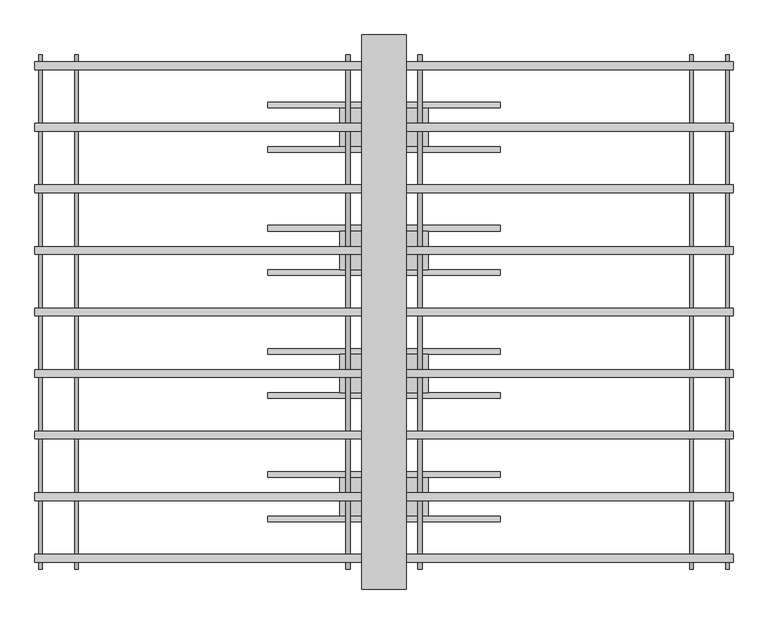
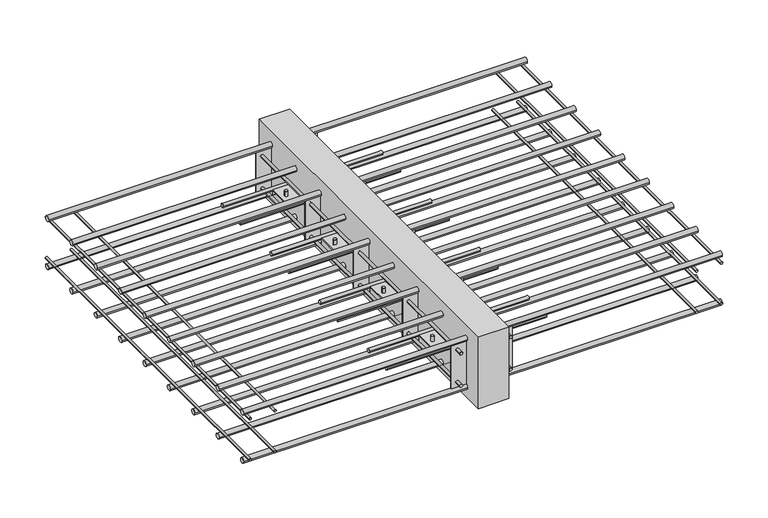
"""IFC4 building model written with IfcOpenShell, lengths in millimetres: proxy geometry, ACINOXplus_Typenreihe_M : MG+ S4."""

from ifc_helpers import new_model, si_unit, point, frame, frame_2d, origin, place, context, project, spatial, polyline, circle_curve, trimmed, segment, composite_curve, outline, extrude, source, transform, mapped, element, save
from ifc_brep_helpers import plane_surface, cylinder_surface, advanced_brep


def generic_models_3da3af35(model_context):
    return source(origin(), model_context, "Body", "SolidModel", [
        extrude(outline(composite_curve([segment(trimmed(circle_curve(frame_2d((-373.3333333, -104.0)), 5.0), [point((-378.3333333, -104.0))], [point((-368.3333333, -104.0))], False, "CARTESIAN"), True, "CONTINUOUS"), segment(trimmed(circle_curve(frame_2d((-373.3333333, -104.0)), 5.0), [point((-368.3333333, -104.0))], [point((-378.3333333, -104.0))], False, "CARTESIAN"), True, "CONTINUOUS")], self_intersect=False)), frame((-210.0, 0.0, 0.0), z_axis=(1.0, 0.0, 0.0), x_axis=(0.0, 1.0, 0.0)), (0.0, 0.0, 1.0), 420.0),
        extrude(outline(composite_curve([segment(trimmed(circle_curve(frame_2d((-293.3333333, -104.0)), 5.0), [point((-298.3333333, -104.0))], [point((-288.3333333, -104.0))], False, "CARTESIAN"), True, "CONTINUOUS"), segment(trimmed(circle_curve(frame_2d((-293.3333333, -104.0)), 5.0), [point((-288.3333333, -104.0))], [point((-298.3333333, -104.0))], False, "CARTESIAN"), True, "CONTINUOUS")], self_intersect=False)), frame((-210.0, 0.0, 0.0), z_axis=(1.0, 0.0, 0.0), x_axis=(0.0, 1.0, 0.0)), (0.0, 0.0, 1.0), 420.0),
        advanced_brep(
        [(-69.0, -333.3333333, -89.0), (-61.0, -333.3333333, -89.0), (61.0, -333.3333333, -89.0), (69.0, -333.3333333, -89.0), (-69.0, -333.3333333, -119.0), (-61.0, -333.3333333, -119.0), (61.0, -333.3333333, -119.0), (69.0, -333.3333333, -119.0), (-69.0, -333.3333333, -102.5), (-61.0, -333.3333333, -102.5), (-61.0, -333.3333333, -105.5), (-69.0, -333.3333333, -105.5), (61.0, -333.3333333, -102.5), (69.0, -333.3333333, -102.5), (69.0, -333.3333333, -105.5), (61.0, -333.3333333, -105.5), (80.0, -298.3333333, -102.5), (-80.0, -298.3333333, -102.5), (-80.0, -368.3333333, -102.5), (80.0, -368.3333333, -102.5), (80.0, -298.3333333, -105.5), (80.0, -368.3333333, -105.5), (-80.0, -368.3333333, -105.5), (-80.0, -298.3333333, -105.5)],
        [
            (0, 1, circle_curve(frame((-65.0, -333.3333333, -89.0), z_axis=(0.0, 0.0, 1.0), x_axis=(1.0, 0.0, 0.0)), 4.0)),
            (1, 0, circle_curve(frame((-65.0, -333.3333333, -89.0), z_axis=(0.0, 0.0, 1.0), x_axis=(1.0, 0.0, 0.0)), 4.0)),
            (2, 3, circle_curve(frame((65.0, -333.3333333, -89.0), z_axis=(0.0, 0.0, 1.0), x_axis=(1.0, 0.0, 0.0)), 4.0)),
            (3, 2, circle_curve(frame((65.0, -333.3333333, -89.0), z_axis=(0.0, 0.0, 1.0), x_axis=(1.0, 0.0, 0.0)), 4.0)),
            (4, 5, circle_curve(frame((-65.0, -333.3333333, -119.0), z_axis=(0.0, 0.0, -1.0), x_axis=(1.0, 0.0, 0.0)), 4.0)),
            (5, 4, circle_curve(frame((-65.0, -333.3333333, -119.0), z_axis=(0.0, 0.0, -1.0), x_axis=(1.0, 0.0, 0.0)), 4.0)),
            (6, 7, circle_curve(frame((65.0, -333.3333333, -119.0), z_axis=(0.0, 0.0, -1.0), x_axis=(1.0, 0.0, 0.0)), 4.0)),
            (7, 6, circle_curve(frame((65.0, -333.3333333, -119.0), z_axis=(0.0, 0.0, -1.0), x_axis=(1.0, 0.0, 0.0)), 4.0)),
            (0, 8),
            (8, 9, circle_curve(frame((-65.0, -333.3333333, -102.5), z_axis=(0.0, 0.0, 1.0), x_axis=(1.0, 0.0, 0.0)), 4.0)),
            (9, 1),
            (5, 10),
            (10, 11, circle_curve(frame((-65.0, -333.3333333, -105.5), z_axis=(0.0, 0.0, -1.0), x_axis=(1.0, 0.0, 0.0)), 4.0)),
            (11, 4),
            (9, 8, circle_curve(frame((-65.0, -333.3333333, -102.5), z_axis=(0.0, 0.0, 1.0), x_axis=(1.0, 0.0, 0.0)), 4.0)),
            (11, 10, circle_curve(frame((-65.0, -333.3333333, -105.5), z_axis=(0.0, 0.0, -1.0), x_axis=(1.0, 0.0, 0.0)), 4.0)),
            (2, 12),
            (12, 13, circle_curve(frame((65.0, -333.3333333, -102.5), z_axis=(0.0, 0.0, 1.0), x_axis=(1.0, 0.0, 0.0)), 4.0)),
            (13, 3),
            (7, 14),
            (14, 15, circle_curve(frame((65.0, -333.3333333, -105.5), z_axis=(0.0, 0.0, -1.0), x_axis=(1.0, 0.0, 0.0)), 4.0)),
            (15, 6),
            (13, 12, circle_curve(frame((65.0, -333.3333333, -102.5), z_axis=(0.0, 0.0, 1.0), x_axis=(1.0, 0.0, 0.0)), 4.0)),
            (15, 14, circle_curve(frame((65.0, -333.3333333, -105.5), z_axis=(0.0, 0.0, -1.0), x_axis=(1.0, 0.0, 0.0)), 4.0)),
            (16, 17),
            (17, 18),
            (18, 19),
            (19, 16),
            (20, 21),
            (21, 22),
            (22, 23),
            (23, 20),
            (16, 20),
            (23, 17),
            (22, 18),
            (21, 19),
        ],
        [
            plane_surface(frame((-61.0, -333.3333333, -89.0), z_axis=(0.0, 0.0, 1.0), x_axis=(0.0, 1.0, 0.0))),
            plane_surface(frame((-61.0, -333.3333333, -119.0), z_axis=(0.0, 0.0, -1.0), x_axis=(0.0, -1.0, 0.0))),
            cylinder_surface(frame((-65.0, -333.3333333, -119.0), z_axis=(0.0, 0.0, 1.0), x_axis=(1.0, 0.0, 0.0)), 4.0),
            cylinder_surface(frame((65.0, -333.3333333, -104.0), z_axis=(0.0, 0.0, 1.0), x_axis=(1.0, 0.0, 0.0)), 4.0),
            plane_surface(frame((-80.0, -298.3333333, -102.5), z_axis=(0.0, 0.0, 1.0), x_axis=(-1.0, 0.0, 0.0))),
            plane_surface(frame((-80.0, -298.3333333, -105.5), z_axis=(0.0, 0.0, -1.0), x_axis=(1.0, 0.0, 0.0))),
            plane_surface(frame((80.0, -298.3333333, -102.5), z_axis=(0.0, 1.0, 0.0), x_axis=(0.0, 0.0, -1.0))),
            plane_surface(frame((-80.0, -298.3333333, -102.5), z_axis=(-1.0, 0.0, 0.0), x_axis=(0.0, 0.0, -1.0))),
            plane_surface(frame((-80.0, -368.3333333, -102.5), z_axis=(0.0, -1.0, 0.0), x_axis=(0.0, 0.0, -1.0))),
            plane_surface(frame((80.0, -368.3333333, -102.5), z_axis=(1.0, 0.0, 0.0), x_axis=(0.0, 0.0, -1.0))),
        ],
        [
            (0, [[1, 2]]),
            (0, [[3, 4]]),
            (1, [[5, 6]]),
            (1, [[7, 8]]),
            (2, [[-1, 9, 10, 11]]),
            (2, [[-6, 12, 13, 14]]),
            (2, [[-2, -11, 15, -9]]),
            (2, [[-5, -14, 16, -12]]),
            (3, [[-3, 17, 18, 19]]),
            (3, [[-8, 20, 21, 22]]),
            (3, [[-4, -19, 23, -17]]),
            (3, [[-7, -22, 24, -20]]),
            (4, [[25, 26, 27, 28], [-10, -15], [-18, -23]]),
            (5, [[29, 30, 31, 32], [-13, -16], [-21, -24]]),
            (6, [[-25, 33, -32, 34]]),
            (7, [[-26, -34, -31, 35]]),
            (8, [[-27, -35, -30, 36]]),
            (9, [[-28, -36, -29, -33]]),
        ],
    ),
        extrude(outline(composite_curve([segment(trimmed(circle_curve(frame_2d((293.3333333, -104.0)), 5.0), [point((288.3333333, -104.0))], [point((298.3333333, -104.0))], False, "CARTESIAN"), True, "CONTINUOUS"), segment(trimmed(circle_curve(frame_2d((293.3333333, -104.0)), 5.0), [point((298.3333333, -104.0))], [point((288.3333333, -104.0))], False, "CARTESIAN"), True, "CONTINUOUS")], self_intersect=False)), frame((-210.0, 0.0, 0.0), z_axis=(1.0, 0.0, 0.0), x_axis=(0.0, 1.0, 0.0)), (0.0, 0.0, 1.0), 420.0),
        extrude(outline(composite_curve([segment(trimmed(circle_curve(frame_2d((373.3333333, -104.0)), 5.0), [point((368.3333333, -104.0))], [point((378.3333333, -104.0))], False, "CARTESIAN"), True, "CONTINUOUS"), segment(trimmed(circle_curve(frame_2d((373.3333333, -104.0)), 5.0), [point((378.3333333, -104.0))], [point((368.3333333, -104.0))], False, "CARTESIAN"), True, "CONTINUOUS")], self_intersect=False)), frame((-210.0, 0.0, 0.0), z_axis=(1.0, 0.0, 0.0), x_axis=(0.0, 1.0, 0.0)), (0.0, 0.0, 1.0), 420.0),
        advanced_brep(
        [(-69.0, 333.3333333, -89.0), (-61.0, 333.3333333, -89.0), (61.0, 333.3333333, -89.0), (69.0, 333.3333333, -89.0), (-69.0, 333.3333333, -119.0), (-61.0, 333.3333333, -119.0), (61.0, 333.3333333, -119.0), (69.0, 333.3333333, -119.0), (-69.0, 333.3333333, -102.5), (-61.0, 333.3333333, -102.5), (-61.0, 333.3333333, -105.5), (-69.0, 333.3333333, -105.5), (61.0, 333.3333333, -102.5), (69.0, 333.3333333, -102.5), (69.0, 333.3333333, -105.5), (61.0, 333.3333333, -105.5), (80.0, 368.3333333, -102.5), (-80.0, 368.3333333, -102.5), (-80.0, 298.3333333, -102.5), (80.0, 298.3333333, -102.5), (80.0, 368.3333333, -105.5), (80.0, 298.3333333, -105.5), (-80.0, 298.3333333, -105.5), (-80.0, 368.3333333, -105.5)],
        [
            (0, 1, circle_curve(frame((-65.0, 333.3333333, -89.0), z_axis=(0.0, 0.0, 1.0), x_axis=(1.0, 0.0, 0.0)), 4.0)),
            (1, 0, circle_curve(frame((-65.0, 333.3333333, -89.0), z_axis=(0.0, 0.0, 1.0), x_axis=(1.0, 0.0, 0.0)), 4.0)),
            (2, 3, circle_curve(frame((65.0, 333.3333333, -89.0), z_axis=(0.0, 0.0, 1.0), x_axis=(1.0, 0.0, 0.0)), 4.0)),
            (3, 2, circle_curve(frame((65.0, 333.3333333, -89.0), z_axis=(0.0, 0.0, 1.0), x_axis=(1.0, 0.0, 0.0)), 4.0)),
            (4, 5, circle_curve(frame((-65.0, 333.3333333, -119.0), z_axis=(0.0, 0.0, -1.0), x_axis=(1.0, 0.0, 0.0)), 4.0)),
            (5, 4, circle_curve(frame((-65.0, 333.3333333, -119.0), z_axis=(0.0, 0.0, -1.0), x_axis=(1.0, 0.0, 0.0)), 4.0)),
            (6, 7, circle_curve(frame((65.0, 333.3333333, -119.0), z_axis=(0.0, 0.0, -1.0), x_axis=(1.0, 0.0, 0.0)), 4.0)),
            (7, 6, circle_curve(frame((65.0, 333.3333333, -119.0), z_axis=(0.0, 0.0, -1.0), x_axis=(1.0, 0.0, 0.0)), 4.0)),
            (0, 8),
            (8, 9, circle_curve(frame((-65.0, 333.3333333, -102.5), z_axis=(0.0, 0.0, 1.0), x_axis=(1.0, 0.0, 0.0)), 4.0)),
            (9, 1),
            (5, 10),
            (10, 11, circle_curve(frame((-65.0, 333.3333333, -105.5), z_axis=(0.0, 0.0, -1.0), x_axis=(1.0, 0.0, 0.0)), 4.0)),
            (11, 4),
            (9, 8, circle_curve(frame((-65.0, 333.3333333, -102.5), z_axis=(0.0, 0.0, 1.0), x_axis=(1.0, 0.0, 0.0)), 4.0)),
            (11, 10, circle_curve(frame((-65.0, 333.3333333, -105.5), z_axis=(0.0, 0.0, -1.0), x_axis=(1.0, 0.0, 0.0)), 4.0)),
            (2, 12),
            (12, 13, circle_curve(frame((65.0, 333.3333333, -102.5), z_axis=(0.0, 0.0, 1.0), x_axis=(1.0, 0.0, 0.0)), 4.0)),
            (13, 3),
            (7, 14),
            (14, 15, circle_curve(frame((65.0, 333.3333333, -105.5), z_axis=(0.0, 0.0, -1.0), x_axis=(1.0, 0.0, 0.0)), 4.0)),
            (15, 6),
            (13, 12, circle_curve(frame((65.0, 333.3333333, -102.5), z_axis=(0.0, 0.0, 1.0), x_axis=(1.0, 0.0, 0.0)), 4.0)),
            (15, 14, circle_curve(frame((65.0, 333.3333333, -105.5), z_axis=(0.0, 0.0, -1.0), x_axis=(1.0, 0.0, 0.0)), 4.0)),
            (16, 17),
            (17, 18),
            (18, 19),
            (19, 16),
            (20, 21),
            (21, 22),
            (22, 23),
            (23, 20),
            (16, 20),
            (23, 17),
            (22, 18),
            (21, 19),
        ],
        [
            plane_surface(frame((-61.0, 333.3333333, -89.0), z_axis=(0.0, 0.0, 1.0), x_axis=(0.0, 1.0, 0.0))),
            plane_surface(frame((-61.0, 333.3333333, -119.0), z_axis=(0.0, 0.0, -1.0), x_axis=(0.0, -1.0, 0.0))),
            cylinder_surface(frame((-65.0, 333.3333333, -119.0), z_axis=(0.0, 0.0, 1.0), x_axis=(1.0, 0.0, 0.0)), 4.0),
            cylinder_surface(frame((65.0, 333.3333333, -104.0), z_axis=(0.0, 0.0, 1.0), x_axis=(1.0, 0.0, 0.0)), 4.0),
            plane_surface(frame((-80.0, 368.3333333, -102.5), z_axis=(0.0, 0.0, 1.0), x_axis=(-1.0, 0.0, 0.0))),
            plane_surface(frame((-80.0, 368.3333333, -105.5), z_axis=(0.0, 0.0, -1.0), x_axis=(1.0, 0.0, 0.0))),
            plane_surface(frame((80.0, 368.3333333, -102.5), z_axis=(0.0, 1.0, 0.0), x_axis=(0.0, 0.0, -1.0))),
            plane_surface(frame((-80.0, 368.3333333, -102.5), z_axis=(-1.0, 0.0, 0.0), x_axis=(0.0, 0.0, -1.0))),
            plane_surface(frame((-80.0, 298.3333333, -102.5), z_axis=(0.0, -1.0, 0.0), x_axis=(0.0, 0.0, -1.0))),
            plane_surface(frame((80.0, 298.3333333, -102.5), z_axis=(1.0, 0.0, 0.0), x_axis=(0.0, 0.0, -1.0))),
        ],
        [
            (0, [[1, 2]]),
            (0, [[3, 4]]),
            (1, [[5, 6]]),
            (1, [[7, 8]]),
            (2, [[-1, 9, 10, 11]]),
            (2, [[-6, 12, 13, 14]]),
            (2, [[-2, -11, 15, -9]]),
            (2, [[-5, -14, 16, -12]]),
            (3, [[-3, 17, 18, 19]]),
            (3, [[-8, 20, 21, 22]]),
            (3, [[-4, -19, 23, -17]]),
            (3, [[-7, -22, 24, -20]]),
            (4, [[25, 26, 27, 28], [-10, -15], [-18, -23]]),
            (5, [[29, 30, 31, 32], [-13, -16], [-21, -24]]),
            (6, [[-25, 33, -32, 34]]),
            (7, [[-26, -34, -31, 35]]),
            (8, [[-27, -35, -30, 36]]),
            (9, [[-28, -36, -29, -33]]),
        ],
    ),
        extrude(outline(composite_curve([segment(trimmed(circle_curve(frame_2d((-151.1111111, -104.0)), 5.0), [point((-156.1111111, -104.0))], [point((-146.1111111, -104.0))], False, "CARTESIAN"), True, "CONTINUOUS"), segment(trimmed(circle_curve(frame_2d((-151.1111111, -104.0)), 5.0), [point((-146.1111111, -104.0))], [point((-156.1111111, -104.0))], False, "CARTESIAN"), True, "CONTINUOUS")], self_intersect=False)), frame((-210.0, 0.0, 0.0), z_axis=(1.0, 0.0, 0.0), x_axis=(0.0, 1.0, 0.0)), (0.0, 0.0, 1.0), 420.0),
        extrude(outline(composite_curve([segment(trimmed(circle_curve(frame_2d((-71.1111111, -104.0)), 5.0), [point((-76.1111111, -104.0))], [point((-66.1111111, -104.0))], False, "CARTESIAN"), True, "CONTINUOUS"), segment(trimmed(circle_curve(frame_2d((-71.1111111, -104.0)), 5.0), [point((-66.1111111, -104.0))], [point((-76.1111111, -104.0))], False, "CARTESIAN"), True, "CONTINUOUS")], self_intersect=False)), frame((-210.0, 0.0, 0.0), z_axis=(1.0, 0.0, 0.0), x_axis=(0.0, 1.0, 0.0)), (0.0, 0.0, 1.0), 420.0),
        advanced_brep(
        [(-69.0, -111.1111111, -89.0), (-61.0, -111.1111111, -89.0), (61.0, -111.1111111, -89.0), (69.0, -111.1111111, -89.0), (-69.0, -111.1111111, -119.0), (-61.0, -111.1111111, -119.0), (61.0, -111.1111111, -119.0), (69.0, -111.1111111, -119.0), (-69.0, -111.1111111, -102.5), (-61.0, -111.1111111, -102.5), (-61.0, -111.1111111, -105.5), (-69.0, -111.1111111, -105.5), (61.0, -111.1111111, -102.5), (69.0, -111.1111111, -102.5), (69.0, -111.1111111, -105.5), (61.0, -111.1111111, -105.5), (80.0, -76.1111111, -102.5), (-80.0, -76.1111111, -102.5), (-80.0, -146.1111111, -102.5), (80.0, -146.1111111, -102.5), (80.0, -76.1111111, -105.5), (80.0, -146.1111111, -105.5), (-80.0, -146.1111111, -105.5), (-80.0, -76.1111111, -105.5)],
        [
            (0, 1, circle_curve(frame((-65.0, -111.1111111, -89.0), z_axis=(0.0, 0.0, 1.0), x_axis=(1.0, 0.0, 0.0)), 4.0)),
            (1, 0, circle_curve(frame((-65.0, -111.1111111, -89.0), z_axis=(0.0, 0.0, 1.0), x_axis=(1.0, 0.0, 0.0)), 4.0)),
            (2, 3, circle_curve(frame((65.0, -111.1111111, -89.0), z_axis=(0.0, 0.0, 1.0), x_axis=(1.0, 0.0, 0.0)), 4.0)),
            (3, 2, circle_curve(frame((65.0, -111.1111111, -89.0), z_axis=(0.0, 0.0, 1.0), x_axis=(1.0, 0.0, 0.0)), 4.0)),
            (4, 5, circle_curve(frame((-65.0, -111.1111111, -119.0), z_axis=(0.0, 0.0, -1.0), x_axis=(1.0, 0.0, 0.0)), 4.0)),
            (5, 4, circle_curve(frame((-65.0, -111.1111111, -119.0), z_axis=(0.0, 0.0, -1.0), x_axis=(1.0, 0.0, 0.0)), 4.0)),
            (6, 7, circle_curve(frame((65.0, -111.1111111, -119.0), z_axis=(0.0, 0.0, -1.0), x_axis=(1.0, 0.0, 0.0)), 4.0)),
            (7, 6, circle_curve(frame((65.0, -111.1111111, -119.0), z_axis=(0.0, 0.0, -1.0), x_axis=(1.0, 0.0, 0.0)), 4.0)),
            (0, 8),
            (8, 9, circle_curve(frame((-65.0, -111.1111111, -102.5), z_axis=(0.0, 0.0, 1.0), x_axis=(1.0, 0.0, 0.0)), 4.0)),
            (9, 1),
            (5, 10),
            (10, 11, circle_curve(frame((-65.0, -111.1111111, -105.5), z_axis=(0.0, 0.0, -1.0), x_axis=(1.0, 0.0, 0.0)), 4.0)),
            (11, 4),
            (9, 8, circle_curve(frame((-65.0, -111.1111111, -102.5), z_axis=(0.0, 0.0, 1.0), x_axis=(1.0, 0.0, 0.0)), 4.0)),
            (11, 10, circle_curve(frame((-65.0, -111.1111111, -105.5), z_axis=(0.0, 0.0, -1.0), x_axis=(1.0, 0.0, 0.0)), 4.0)),
            (2, 12),
            (12, 13, circle_curve(frame((65.0, -111.1111111, -102.5), z_axis=(0.0, 0.0, 1.0), x_axis=(1.0, 0.0, 0.0)), 4.0)),
            (13, 3),
            (7, 14),
            (14, 15, circle_curve(frame((65.0, -111.1111111, -105.5), z_axis=(0.0, 0.0, -1.0), x_axis=(1.0, 0.0, 0.0)), 4.0)),
            (15, 6),
            (13, 12, circle_curve(frame((65.0, -111.1111111, -102.5), z_axis=(0.0, 0.0, 1.0), x_axis=(1.0, 0.0, 0.0)), 4.0)),
            (15, 14, circle_curve(frame((65.0, -111.1111111, -105.5), z_axis=(0.0, 0.0, -1.0), x_axis=(1.0, 0.0, 0.0)), 4.0)),
            (16, 17),
            (17, 18),
            (18, 19),
            (19, 16),
            (20, 21),
            (21, 22),
            (22, 23),
            (23, 20),
            (16, 20),
            (23, 17),
            (22, 18),
            (21, 19),
        ],
        [
            plane_surface(frame((-61.0, -111.1111111, -89.0), z_axis=(0.0, 0.0, 1.0), x_axis=(0.0, 1.0, 0.0))),
            plane_surface(frame((-61.0, -111.1111111, -119.0), z_axis=(0.0, 0.0, -1.0), x_axis=(0.0, -1.0, 0.0))),
            cylinder_surface(frame((-65.0, -111.1111111, -119.0), z_axis=(0.0, 0.0, 1.0), x_axis=(1.0, 0.0, 0.0)), 4.0),
            cylinder_surface(frame((65.0, -111.1111111, -104.0), z_axis=(0.0, 0.0, 1.0), x_axis=(1.0, 0.0, 0.0)), 4.0),
            plane_surface(frame((-80.0, -76.1111111, -102.5), z_axis=(0.0, 0.0, 1.0), x_axis=(-1.0, 0.0, 0.0))),
            plane_surface(frame((-80.0, -76.1111111, -105.5), z_axis=(0.0, 0.0, -1.0), x_axis=(1.0, 0.0, 0.0))),
            plane_surface(frame((80.0, -76.1111111, -102.5), z_axis=(0.0, 1.0, 0.0), x_axis=(0.0, 0.0, -1.0))),
            plane_surface(frame((-80.0, -76.1111111, -102.5), z_axis=(-1.0, 0.0, 0.0), x_axis=(0.0, 0.0, -1.0))),
            plane_surface(frame((-80.0, -146.1111111, -102.5), z_axis=(0.0, -1.0, 0.0), x_axis=(0.0, 0.0, -1.0))),
            plane_surface(frame((80.0, -146.1111111, -102.5), z_axis=(1.0, 0.0, 0.0), x_axis=(0.0, 0.0, -1.0))),
        ],
        [
            (0, [[1, 2]]),
            (0, [[3, 4]]),
            (1, [[5, 6]]),
            (1, [[7, 8]]),
            (2, [[-1, 9, 10, 11]]),
            (2, [[-6, 12, 13, 14]]),
            (2, [[-2, -11, 15, -9]]),
            (2, [[-5, -14, 16, -12]]),
            (3, [[-3, 17, 18, 19]]),
            (3, [[-8, 20, 21, 22]]),
            (3, [[-4, -19, 23, -17]]),
            (3, [[-7, -22, 24, -20]]),
            (4, [[25, 26, 27, 28], [-10, -15], [-18, -23]]),
            (5, [[29, 30, 31, 32], [-13, -16], [-21, -24]]),
            (6, [[-25, 33, -32, 34]]),
            (7, [[-26, -34, -31, 35]]),
            (8, [[-27, -35, -30, 36]]),
            (9, [[-28, -36, -29, -33]]),
        ],
    ),
        extrude(outline(composite_curve([segment(trimmed(circle_curve(frame_2d((71.1111111, -104.0)), 5.0), [point((66.1111111, -104.0))], [point((76.1111111, -104.0))], False, "CARTESIAN"), True, "CONTINUOUS"), segment(trimmed(circle_curve(frame_2d((71.1111111, -104.0)), 5.0), [point((76.1111111, -104.0))], [point((66.1111111, -104.0))], False, "CARTESIAN"), True, "CONTINUOUS")], self_intersect=False)), frame((-210.0, 0.0, 0.0), z_axis=(1.0, 0.0, 0.0), x_axis=(0.0, 1.0, 0.0)), (0.0, 0.0, 1.0), 420.0),
        extrude(outline(composite_curve([segment(trimmed(circle_curve(frame_2d((151.1111111, -104.0)), 5.0), [point((146.1111111, -104.0))], [point((156.1111111, -104.0))], False, "CARTESIAN"), True, "CONTINUOUS"), segment(trimmed(circle_curve(frame_2d((151.1111111, -104.0)), 5.0), [point((156.1111111, -104.0))], [point((146.1111111, -104.0))], False, "CARTESIAN"), True, "CONTINUOUS")], self_intersect=False)), frame((-210.0, 0.0, 0.0), z_axis=(1.0, 0.0, 0.0), x_axis=(0.0, 1.0, 0.0)), (0.0, 0.0, 1.0), 420.0),
        advanced_brep(
        [(-69.0, 111.1111111, -89.0), (-61.0, 111.1111111, -89.0), (61.0, 111.1111111, -89.0), (69.0, 111.1111111, -89.0), (-69.0, 111.1111111, -119.0), (-61.0, 111.1111111, -119.0), (61.0, 111.1111111, -119.0), (69.0, 111.1111111, -119.0), (-69.0, 111.1111111, -102.5), (-61.0, 111.1111111, -102.5), (-61.0, 111.1111111, -105.5), (-69.0, 111.1111111, -105.5), (61.0, 111.1111111, -102.5), (69.0, 111.1111111, -102.5), (69.0, 111.1111111, -105.5), (61.0, 111.1111111, -105.5), (80.0, 146.1111111, -102.5), (-80.0, 146.1111111, -102.5), (-80.0, 76.1111111, -102.5), (80.0, 76.1111111, -102.5), (80.0, 146.1111111, -105.5), (80.0, 76.1111111, -105.5), (-80.0, 76.1111111, -105.5), (-80.0, 146.1111111, -105.5)],
        [
            (0, 1, circle_curve(frame((-65.0, 111.1111111, -89.0), z_axis=(0.0, 0.0, 1.0), x_axis=(1.0, 0.0, 0.0)), 4.0)),
            (1, 0, circle_curve(frame((-65.0, 111.1111111, -89.0), z_axis=(0.0, 0.0, 1.0), x_axis=(1.0, 0.0, 0.0)), 4.0)),
            (2, 3, circle_curve(frame((65.0, 111.1111111, -89.0), z_axis=(0.0, 0.0, 1.0), x_axis=(1.0, 0.0, 0.0)), 4.0)),
            (3, 2, circle_curve(frame((65.0, 111.1111111, -89.0), z_axis=(0.0, 0.0, 1.0), x_axis=(1.0, 0.0, 0.0)), 4.0)),
            (4, 5, circle_curve(frame((-65.0, 111.1111111, -119.0), z_axis=(0.0, 0.0, -1.0), x_axis=(1.0, 0.0, 0.0)), 4.0)),
            (5, 4, circle_curve(frame((-65.0, 111.1111111, -119.0), z_axis=(0.0, 0.0, -1.0), x_axis=(1.0, 0.0, 0.0)), 4.0)),
            (6, 7, circle_curve(frame((65.0, 111.1111111, -119.0), z_axis=(0.0, 0.0, -1.0), x_axis=(1.0, 0.0, 0.0)), 4.0)),
            (7, 6, circle_curve(frame((65.0, 111.1111111, -119.0), z_axis=(0.0, 0.0, -1.0), x_axis=(1.0, 0.0, 0.0)), 4.0)),
            (0, 8),
            (8, 9, circle_curve(frame((-65.0, 111.1111111, -102.5), z_axis=(0.0, 0.0, 1.0), x_axis=(1.0, 0.0, 0.0)), 4.0)),
            (9, 1),
            (5, 10),
            (10, 11, circle_curve(frame((-65.0, 111.1111111, -105.5), z_axis=(0.0, 0.0, -1.0), x_axis=(1.0, 0.0, 0.0)), 4.0)),
            (11, 4),
            (9, 8, circle_curve(frame((-65.0, 111.1111111, -102.5), z_axis=(0.0, 0.0, 1.0), x_axis=(1.0, 0.0, 0.0)), 4.0)),
            (11, 10, circle_curve(frame((-65.0, 111.1111111, -105.5), z_axis=(0.0, 0.0, -1.0), x_axis=(1.0, 0.0, 0.0)), 4.0)),
            (2, 12),
            (12, 13, circle_curve(frame((65.0, 111.1111111, -102.5), z_axis=(0.0, 0.0, 1.0), x_axis=(1.0, 0.0, 0.0)), 4.0)),
            (13, 3),
            (7, 14),
            (14, 15, circle_curve(frame((65.0, 111.1111111, -105.5), z_axis=(0.0, 0.0, -1.0), x_axis=(1.0, 0.0, 0.0)), 4.0)),
            (15, 6),
            (13, 12, circle_curve(frame((65.0, 111.1111111, -102.5), z_axis=(0.0, 0.0, 1.0), x_axis=(1.0, 0.0, 0.0)), 4.0)),
            (15, 14, circle_curve(frame((65.0, 111.1111111, -105.5), z_axis=(0.0, 0.0, -1.0), x_axis=(1.0, 0.0, 0.0)), 4.0)),
            (16, 17),
            (17, 18),
            (18, 19),
            (19, 16),
            (20, 21),
            (21, 22),
            (22, 23),
            (23, 20),
            (16, 20),
            (23, 17),
            (22, 18),
            (21, 19),
        ],
        [
            plane_surface(frame((-61.0, 111.1111111, -89.0), z_axis=(0.0, 0.0, 1.0), x_axis=(0.0, 1.0, 0.0))),
            plane_surface(frame((-61.0, 111.1111111, -119.0), z_axis=(0.0, 0.0, -1.0), x_axis=(0.0, -1.0, 0.0))),
            cylinder_surface(frame((-65.0, 111.1111111, -119.0), z_axis=(0.0, 0.0, 1.0), x_axis=(1.0, 0.0, 0.0)), 4.0),
            cylinder_surface(frame((65.0, 111.1111111, -104.0), z_axis=(0.0, 0.0, 1.0), x_axis=(1.0, 0.0, 0.0)), 4.0),
            plane_surface(frame((-80.0, 146.1111111, -102.5), z_axis=(0.0, 0.0, 1.0), x_axis=(-1.0, 0.0, 0.0))),
            plane_surface(frame((-80.0, 146.1111111, -105.5), z_axis=(0.0, 0.0, -1.0), x_axis=(1.0, 0.0, 0.0))),
            plane_surface(frame((80.0, 146.1111111, -102.5), z_axis=(0.0, 1.0, 0.0), x_axis=(0.0, 0.0, -1.0))),
            plane_surface(frame((-80.0, 146.1111111, -102.5), z_axis=(-1.0, 0.0, 0.0), x_axis=(0.0, 0.0, -1.0))),
            plane_surface(frame((-80.0, 76.1111111, -102.5), z_axis=(0.0, -1.0, 0.0), x_axis=(0.0, 0.0, -1.0))),
            plane_surface(frame((80.0, 76.1111111, -102.5), z_axis=(1.0, 0.0, 0.0), x_axis=(0.0, 0.0, -1.0))),
        ],
        [
            (0, [[1, 2]]),
            (0, [[3, 4]]),
            (1, [[5, 6]]),
            (1, [[7, 8]]),
            (2, [[-1, 9, 10, 11]]),
            (2, [[-6, 12, 13, 14]]),
            (2, [[-2, -11, 15, -9]]),
            (2, [[-5, -14, 16, -12]]),
            (3, [[-3, 17, 18, 19]]),
            (3, [[-8, 20, 21, 22]]),
            (3, [[-4, -19, 23, -17]]),
            (3, [[-7, -22, 24, -20]]),
            (4, [[25, 26, 27, 28], [-10, -15], [-18, -23]]),
            (5, [[29, 30, 31, 32], [-13, -16], [-21, -24]]),
            (6, [[-25, 33, -32, 34]]),
            (7, [[-26, -34, -31, 35]]),
            (8, [[-27, -35, -30, 36]]),
            (9, [[-28, -36, -29, -33]]),
        ],
    ),
        extrude(outline(polyline([(40.0, 500.0), (40.0, -500.0), (-40.0, -500.0), (-40.0, 500.0), (40.0, 500.0)])), frame((0.0, 0.0, -200.0), z_axis=(0.0, 0.0, 1.0), x_axis=(1.0, 0.0, 0.0)), (0.0, 0.0, 1.0), 200.0),
        extrude(outline(polyline([(80.0, -220.7222222), (80.0, -223.7222222), (-80.0, -223.7222222), (-80.0, -220.7222222), (80.0, -220.7222222)])), frame((0.0, 0.0, -164.0), z_axis=(0.0, 0.0, 1.0), x_axis=(1.0, 0.0, 0.0)), (0.0, 0.0, 1.0), 120.0),
        extrude(outline(polyline([(80.0, 1.5), (80.0, -1.5), (-80.0, -1.5), (-80.0, 1.5), (80.0, 1.5)])), frame((0.0, 0.0, -164.0), z_axis=(0.0, 0.0, 1.0), x_axis=(1.0, 0.0, 0.0)), (0.0, 0.0, 1.0), 120.0),
        extrude(outline(polyline([(80.0, 223.7222222), (80.0, 220.7222222), (-80.0, 220.7222222), (-80.0, 223.7222222), (80.0, 223.7222222)])), frame((0.0, 0.0, -164.0), z_axis=(0.0, 0.0, 1.0), x_axis=(1.0, 0.0, 0.0)), (0.0, 0.0, 1.0), 120.0),
        extrude(outline(polyline([(80.0, -442.9444444), (80.0, -445.9444444), (-80.0, -445.9444444), (-80.0, -442.9444444), (80.0, -442.9444444)])), frame((0.0, 0.0, -164.0), z_axis=(0.0, 0.0, 1.0), x_axis=(1.0, 0.0, 0.0)), (0.0, 0.0, 1.0), 120.0),
        extrude(outline(polyline([(80.0, 445.9444444), (80.0, 442.9444444), (-80.0, 442.9444444), (-80.0, 445.9444444), (80.0, 445.9444444)])), frame((0.0, 0.0, -164.0), z_axis=(0.0, 0.0, 1.0), x_axis=(1.0, 0.0, 0.0)), (0.0, 0.0, 1.0), 120.0),
        extrude(outline(composite_curve([segment(trimmed(circle_curve(frame_2d((-149.0, -65.0)), 4.0), [point((-149.0, -61.0))], [point((-149.0, -69.0))], False, "CARTESIAN"), True, "CONTINUOUS"), segment(trimmed(circle_curve(frame_2d((-149.0, -65.0)), 4.0), [point((-149.0, -69.0))], [point((-149.0, -61.0))], False, "CARTESIAN"), True, "CONTINUOUS")], self_intersect=False)), frame((0.0, -464.4444444, 0.0), z_axis=(0.0, 1.0, 0.0), x_axis=(0.0, 0.0, 1.0)), (0.0, 0.0, 1.0), 18.5),
        extrude(outline(composite_curve([segment(trimmed(circle_curve(frame_2d((-149.0, -65.0)), 4.0), [point((-149.0, -69.0))], [point((-149.0, -61.0))], False, "CARTESIAN"), True, "CONTINUOUS"), segment(trimmed(circle_curve(frame_2d((-149.0, -65.0)), 4.0), [point((-149.0, -61.0))], [point((-149.0, -69.0))], False, "CARTESIAN"), True, "CONTINUOUS")], self_intersect=False)), frame((0.0, -442.9444444, 0.0), z_axis=(0.0, 1.0, 0.0), x_axis=(0.0, 0.0, 1.0)), (0.0, 0.0, 1.0), 663.6666667),
        extrude(outline(composite_curve([segment(trimmed(circle_curve(frame_2d((-149.0, -65.0)), 4.0), [point((-149.0, -69.0))], [point((-149.0, -61.0))], False, "CARTESIAN"), True, "CONTINUOUS"), segment(trimmed(circle_curve(frame_2d((-149.0, -65.0)), 4.0), [point((-149.0, -61.0))], [point((-149.0, -69.0))], False, "CARTESIAN"), True, "CONTINUOUS")], self_intersect=False)), frame((0.0, 445.9444444, 0.0), z_axis=(0.0, 1.0, 0.0), x_axis=(0.0, 0.0, 1.0)), (0.0, 0.0, 1.0), 18.5),
        extrude(outline(composite_curve([segment(trimmed(circle_curve(frame_2d((-149.0, -65.0)), 4.0), [point((-149.0, -69.0))], [point((-149.0, -61.0))], False, "CARTESIAN"), True, "CONTINUOUS"), segment(trimmed(circle_curve(frame_2d((-149.0, -65.0)), 4.0), [point((-149.0, -61.0))], [point((-149.0, -69.0))], False, "CARTESIAN"), True, "CONTINUOUS")], self_intersect=False)), frame((0.0, 223.7222222, 0.0), z_axis=(0.0, 1.0, 0.0), x_axis=(0.0, 0.0, 1.0)), (0.0, 0.0, 1.0), 219.2222222),
        extrude(outline(composite_curve([segment(trimmed(circle_curve(frame_2d((-149.0, 65.0)), 4.0), [point((-149.0, 69.0))], [point((-149.0, 61.0))], False, "CARTESIAN"), True, "CONTINUOUS"), segment(trimmed(circle_curve(frame_2d((-149.0, 65.0)), 4.0), [point((-149.0, 61.0))], [point((-149.0, 69.0))], False, "CARTESIAN"), True, "CONTINUOUS")], self_intersect=False)), frame((0.0, -464.4444444, 0.0), z_axis=(0.0, 1.0, 0.0), x_axis=(0.0, 0.0, 1.0)), (0.0, 0.0, 1.0), 18.5),
        extrude(outline(composite_curve([segment(trimmed(circle_curve(frame_2d((-149.0, 65.0)), 4.0), [point((-149.0, 61.0))], [point((-149.0, 69.0))], False, "CARTESIAN"), True, "CONTINUOUS"), segment(trimmed(circle_curve(frame_2d((-149.0, 65.0)), 4.0), [point((-149.0, 69.0))], [point((-149.0, 61.0))], False, "CARTESIAN"), True, "CONTINUOUS")], self_intersect=False)), frame((0.0, -442.9444444, 0.0), z_axis=(0.0, 1.0, 0.0), x_axis=(0.0, 0.0, 1.0)), (0.0, 0.0, 1.0), 663.6666667),
        extrude(outline(composite_curve([segment(trimmed(circle_curve(frame_2d((-149.0, 65.0)), 4.0), [point((-149.0, 61.0))], [point((-149.0, 69.0))], False, "CARTESIAN"), True, "CONTINUOUS"), segment(trimmed(circle_curve(frame_2d((-149.0, 65.0)), 4.0), [point((-149.0, 69.0))], [point((-149.0, 61.0))], False, "CARTESIAN"), True, "CONTINUOUS")], self_intersect=False)), frame((0.0, 445.9444444, 0.0), z_axis=(0.0, 1.0, 0.0), x_axis=(0.0, 0.0, 1.0)), (0.0, 0.0, 1.0), 18.5),
        extrude(outline(composite_curve([segment(trimmed(circle_curve(frame_2d((-149.0, 65.0)), 4.0), [point((-149.0, 61.0))], [point((-149.0, 69.0))], False, "CARTESIAN"), True, "CONTINUOUS"), segment(trimmed(circle_curve(frame_2d((-149.0, 65.0)), 4.0), [point((-149.0, 69.0))], [point((-149.0, 61.0))], False, "CARTESIAN"), True, "CONTINUOUS")], self_intersect=False)), frame((0.0, 223.7222222, 0.0), z_axis=(0.0, 1.0, 0.0), x_axis=(0.0, 0.0, 1.0)), (0.0, 0.0, 1.0), 219.2222222),
        extrude(outline(composite_curve([segment(trimmed(circle_curve(frame_2d((-59.0, -65.0)), 4.0), [point((-59.0, -61.0))], [point((-59.0, -69.0))], False, "CARTESIAN"), True, "CONTINUOUS"), segment(trimmed(circle_curve(frame_2d((-59.0, -65.0)), 4.0), [point((-59.0, -69.0))], [point((-59.0, -61.0))], False, "CARTESIAN"), True, "CONTINUOUS")], self_intersect=False)), frame((0.0, -464.4444444, 0.0), z_axis=(0.0, 1.0, 0.0), x_axis=(0.0, 0.0, 1.0)), (0.0, 0.0, 1.0), 18.5),
        extrude(outline(composite_curve([segment(trimmed(circle_curve(frame_2d((-59.0, -65.0)), 4.0), [point((-59.0, -69.0))], [point((-59.0, -61.0))], False, "CARTESIAN"), True, "CONTINUOUS"), segment(trimmed(circle_curve(frame_2d((-59.0, -65.0)), 4.0), [point((-59.0, -61.0))], [point((-59.0, -69.0))], False, "CARTESIAN"), True, "CONTINUOUS")], self_intersect=False)), frame((0.0, -442.9444444, 0.0), z_axis=(0.0, 1.0, 0.0), x_axis=(0.0, 0.0, 1.0)), (0.0, 0.0, 1.0), 663.6666667),
        extrude(outline(composite_curve([segment(trimmed(circle_curve(frame_2d((-59.0, -65.0)), 4.0), [point((-59.0, -69.0))], [point((-59.0, -61.0))], False, "CARTESIAN"), True, "CONTINUOUS"), segment(trimmed(circle_curve(frame_2d((-59.0, -65.0)), 4.0), [point((-59.0, -61.0))], [point((-59.0, -69.0))], False, "CARTESIAN"), True, "CONTINUOUS")], self_intersect=False)), frame((0.0, 445.9444444, 0.0), z_axis=(0.0, 1.0, 0.0), x_axis=(0.0, 0.0, 1.0)), (0.0, 0.0, 1.0), 18.5),
        extrude(outline(composite_curve([segment(trimmed(circle_curve(frame_2d((-59.0, -65.0)), 4.0), [point((-59.0, -69.0))], [point((-59.0, -61.0))], False, "CARTESIAN"), True, "CONTINUOUS"), segment(trimmed(circle_curve(frame_2d((-59.0, -65.0)), 4.0), [point((-59.0, -61.0))], [point((-59.0, -69.0))], False, "CARTESIAN"), True, "CONTINUOUS")], self_intersect=False)), frame((0.0, 223.7222222, 0.0), z_axis=(0.0, 1.0, 0.0), x_axis=(0.0, 0.0, 1.0)), (0.0, 0.0, 1.0), 219.2222222),
        extrude(outline(composite_curve([segment(trimmed(circle_curve(frame_2d((-59.0, 65.0)), 4.0), [point((-59.0, 69.0))], [point((-59.0, 61.0))], False, "CARTESIAN"), True, "CONTINUOUS"), segment(trimmed(circle_curve(frame_2d((-59.0, 65.0)), 4.0), [point((-59.0, 61.0))], [point((-59.0, 69.0))], False, "CARTESIAN"), True, "CONTINUOUS")], self_intersect=False)), frame((0.0, -464.4444444, 0.0), z_axis=(0.0, 1.0, 0.0), x_axis=(0.0, 0.0, 1.0)), (0.0, 0.0, 1.0), 18.5),
        extrude(outline(composite_curve([segment(trimmed(circle_curve(frame_2d((-59.0, 65.0)), 4.0), [point((-59.0, 61.0))], [point((-59.0, 69.0))], False, "CARTESIAN"), True, "CONTINUOUS"), segment(trimmed(circle_curve(frame_2d((-59.0, 65.0)), 4.0), [point((-59.0, 69.0))], [point((-59.0, 61.0))], False, "CARTESIAN"), True, "CONTINUOUS")], self_intersect=False)), frame((0.0, -442.9444444, 0.0), z_axis=(0.0, 1.0, 0.0), x_axis=(0.0, 0.0, 1.0)), (0.0, 0.0, 1.0), 663.6666667),
        extrude(outline(composite_curve([segment(trimmed(circle_curve(frame_2d((-59.0, 65.0)), 4.0), [point((-59.0, 61.0))], [point((-59.0, 69.0))], False, "CARTESIAN"), True, "CONTINUOUS"), segment(trimmed(circle_curve(frame_2d((-59.0, 65.0)), 4.0), [point((-59.0, 69.0))], [point((-59.0, 61.0))], False, "CARTESIAN"), True, "CONTINUOUS")], self_intersect=False)), frame((0.0, 445.9444444, 0.0), z_axis=(0.0, 1.0, 0.0), x_axis=(0.0, 0.0, 1.0)), (0.0, 0.0, 1.0), 18.5),
        extrude(outline(composite_curve([segment(trimmed(circle_curve(frame_2d((-59.0, 65.0)), 4.0), [point((-59.0, 61.0))], [point((-59.0, 69.0))], False, "CARTESIAN"), True, "CONTINUOUS"), segment(trimmed(circle_curve(frame_2d((-59.0, 65.0)), 4.0), [point((-59.0, 69.0))], [point((-59.0, 61.0))], False, "CARTESIAN"), True, "CONTINUOUS")], self_intersect=False)), frame((0.0, 223.7222222, 0.0), z_axis=(0.0, 1.0, 0.0), x_axis=(0.0, 0.0, 1.0)), (0.0, 0.0, 1.0), 219.2222222),
        extrude(outline(composite_curve([segment(trimmed(circle_curve(frame_2d((222.2222222, -171.0)), 7.0), [point((215.2222222, -171.0))], [point((229.2222222, -171.0))], False, "CARTESIAN"), True, "CONTINUOUS"), segment(trimmed(circle_curve(frame_2d((222.2222222, -171.0)), 7.0), [point((229.2222222, -171.0))], [point((215.2222222, -171.0))], False, "CARTESIAN"), True, "CONTINUOUS")], self_intersect=False)), frame((-630.0, 0.0, 0.0), z_axis=(1.0, 0.0, 0.0), x_axis=(0.0, 1.0, 0.0)), (0.0, 0.0, 1.0), 1260.0),
        extrude(outline(composite_curve([segment(trimmed(circle_curve(frame_2d((111.1111111, -171.0)), 7.0), [point((104.1111111, -171.0))], [point((118.1111111, -171.0))], False, "CARTESIAN"), True, "CONTINUOUS"), segment(trimmed(circle_curve(frame_2d((111.1111111, -171.0)), 7.0), [point((118.1111111, -171.0))], [point((104.1111111, -171.0))], False, "CARTESIAN"), True, "CONTINUOUS")], self_intersect=False)), frame((-630.0, 0.0, 0.0), z_axis=(1.0, 0.0, 0.0), x_axis=(0.0, 1.0, 0.0)), (0.0, 0.0, 1.0), 1260.0),
        extrude(outline(composite_curve([segment(trimmed(circle_curve(frame_2d((0.0, -171.0)), 7.0), [point((-7.0, -171.0))], [point((7.0, -171.0))], False, "CARTESIAN"), True, "CONTINUOUS"), segment(trimmed(circle_curve(frame_2d((0.0, -171.0)), 7.0), [point((7.0, -171.0))], [point((-7.0, -171.0))], False, "CARTESIAN"), True, "CONTINUOUS")], self_intersect=False)), frame((-630.0, 0.0, 0.0), z_axis=(1.0, 0.0, 0.0), x_axis=(0.0, 1.0, 0.0)), (0.0, 0.0, 1.0), 1260.0),
        extrude(outline(composite_curve([segment(trimmed(circle_curve(frame_2d((-111.1111111, -171.0)), 7.0), [point((-118.1111111, -171.0))], [point((-104.1111111, -171.0))], False, "CARTESIAN"), True, "CONTINUOUS"), segment(trimmed(circle_curve(frame_2d((-111.1111111, -171.0)), 7.0), [point((-104.1111111, -171.0))], [point((-118.1111111, -171.0))], False, "CARTESIAN"), True, "CONTINUOUS")], self_intersect=False)), frame((-630.0, 0.0, 0.0), z_axis=(1.0, 0.0, 0.0), x_axis=(0.0, 1.0, 0.0)), (0.0, 0.0, 1.0), 1260.0),
        extrude(outline(composite_curve([segment(trimmed(circle_curve(frame_2d((-222.2222222, -171.0)), 7.0), [point((-229.2222222, -171.0))], [point((-215.2222222, -171.0))], False, "CARTESIAN"), True, "CONTINUOUS"), segment(trimmed(circle_curve(frame_2d((-222.2222222, -171.0)), 7.0), [point((-215.2222222, -171.0))], [point((-229.2222222, -171.0))], False, "CARTESIAN"), True, "CONTINUOUS")], self_intersect=False)), frame((-630.0, 0.0, 0.0), z_axis=(1.0, 0.0, 0.0), x_axis=(0.0, 1.0, 0.0)), (0.0, 0.0, 1.0), 1260.0),
        extrude(outline(composite_curve([segment(trimmed(circle_curve(frame_2d((333.3333333, -171.0)), 7.0), [point((326.3333333, -171.0))], [point((340.3333333, -171.0))], False, "CARTESIAN"), True, "CONTINUOUS"), segment(trimmed(circle_curve(frame_2d((333.3333333, -171.0)), 7.0), [point((340.3333333, -171.0))], [point((326.3333333, -171.0))], False, "CARTESIAN"), True, "CONTINUOUS")], self_intersect=False)), frame((-630.0, 0.0, 0.0), z_axis=(1.0, 0.0, 0.0), x_axis=(0.0, 1.0, 0.0)), (0.0, 0.0, 1.0), 1260.0),
        extrude(outline(composite_curve([segment(trimmed(circle_curve(frame_2d((444.4444444, -171.0)), 7.0), [point((437.4444444, -171.0))], [point((451.4444444, -171.0))], False, "CARTESIAN"), True, "CONTINUOUS"), segment(trimmed(circle_curve(frame_2d((444.4444444, -171.0)), 7.0), [point((451.4444444, -171.0))], [point((437.4444444, -171.0))], False, "CARTESIAN"), True, "CONTINUOUS")], self_intersect=False)), frame((-630.0, 0.0, 0.0), z_axis=(1.0, 0.0, 0.0), x_axis=(0.0, 1.0, 0.0)), (0.0, 0.0, 1.0), 1260.0),
        extrude(outline(composite_curve([segment(trimmed(circle_curve(frame_2d((-333.3333333, -171.0)), 7.0), [point((-340.3333333, -171.0))], [point((-326.3333333, -171.0))], False, "CARTESIAN"), True, "CONTINUOUS"), segment(trimmed(circle_curve(frame_2d((-333.3333333, -171.0)), 7.0), [point((-326.3333333, -171.0))], [point((-340.3333333, -171.0))], False, "CARTESIAN"), True, "CONTINUOUS")], self_intersect=False)), frame((-630.0, 0.0, 0.0), z_axis=(1.0, 0.0, 0.0), x_axis=(0.0, 1.0, 0.0)), (0.0, 0.0, 1.0), 1260.0),
        extrude(outline(composite_curve([segment(trimmed(circle_curve(frame_2d((-444.4444444, -171.0)), 7.0), [point((-451.4444444, -171.0))], [point((-437.4444444, -171.0))], False, "CARTESIAN"), True, "CONTINUOUS"), segment(trimmed(circle_curve(frame_2d((-444.4444444, -171.0)), 7.0), [point((-437.4444444, -171.0))], [point((-451.4444444, -171.0))], False, "CARTESIAN"), True, "CONTINUOUS")], self_intersect=False)), frame((-630.0, 0.0, 0.0), z_axis=(1.0, 0.0, 0.0), x_axis=(0.0, 1.0, 0.0)), (0.0, 0.0, 1.0), 1260.0),
        extrude(outline(composite_curve([segment(trimmed(circle_curve(frame_2d((222.2222222, -37.0)), 7.0), [point((215.2222222, -37.0))], [point((229.2222222, -37.0))], False, "CARTESIAN"), True, "CONTINUOUS"), segment(trimmed(circle_curve(frame_2d((222.2222222, -37.0)), 7.0), [point((229.2222222, -37.0))], [point((215.2222222, -37.0))], False, "CARTESIAN"), True, "CONTINUOUS")], self_intersect=False)), frame((-630.0, 0.0, 0.0), z_axis=(1.0, 0.0, 0.0), x_axis=(0.0, 1.0, 0.0)), (0.0, 0.0, 1.0), 1260.0),
        extrude(outline(composite_curve([segment(trimmed(circle_curve(frame_2d((111.1111111, -37.0)), 7.0), [point((104.1111111, -37.0))], [point((118.1111111, -37.0))], False, "CARTESIAN"), True, "CONTINUOUS"), segment(trimmed(circle_curve(frame_2d((111.1111111, -37.0)), 7.0), [point((118.1111111, -37.0))], [point((104.1111111, -37.0))], False, "CARTESIAN"), True, "CONTINUOUS")], self_intersect=False)), frame((-630.0, 0.0, 0.0), z_axis=(1.0, 0.0, 0.0), x_axis=(0.0, 1.0, 0.0)), (0.0, 0.0, 1.0), 1260.0),
        extrude(outline(composite_curve([segment(trimmed(circle_curve(frame_2d((0.0, -37.0)), 7.0), [point((-7.0, -37.0))], [point((7.0, -37.0))], False, "CARTESIAN"), True, "CONTINUOUS"), segment(trimmed(circle_curve(frame_2d((0.0, -37.0)), 7.0), [point((7.0, -37.0))], [point((-7.0, -37.0))], False, "CARTESIAN"), True, "CONTINUOUS")], self_intersect=False)), frame((-630.0, 0.0, 0.0), z_axis=(1.0, 0.0, 0.0), x_axis=(0.0, 1.0, 0.0)), (0.0, 0.0, 1.0), 1260.0),
        extrude(outline(composite_curve([segment(trimmed(circle_curve(frame_2d((-111.1111111, -37.0)), 7.0), [point((-118.1111111, -37.0))], [point((-104.1111111, -37.0))], False, "CARTESIAN"), True, "CONTINUOUS"), segment(trimmed(circle_curve(frame_2d((-111.1111111, -37.0)), 7.0), [point((-104.1111111, -37.0))], [point((-118.1111111, -37.0))], False, "CARTESIAN"), True, "CONTINUOUS")], self_intersect=False)), frame((-630.0, 0.0, 0.0), z_axis=(1.0, 0.0, 0.0), x_axis=(0.0, 1.0, 0.0)), (0.0, 0.0, 1.0), 1260.0),
        extrude(outline(composite_curve([segment(trimmed(circle_curve(frame_2d((-222.2222222, -37.0)), 7.0), [point((-229.2222222, -37.0))], [point((-215.2222222, -37.0))], False, "CARTESIAN"), True, "CONTINUOUS"), segment(trimmed(circle_curve(frame_2d((-222.2222222, -37.0)), 7.0), [point((-215.2222222, -37.0))], [point((-229.2222222, -37.0))], False, "CARTESIAN"), True, "CONTINUOUS")], self_intersect=False)), frame((-630.0, 0.0, 0.0), z_axis=(1.0, 0.0, 0.0), x_axis=(0.0, 1.0, 0.0)), (0.0, 0.0, 1.0), 1260.0),
        extrude(outline(composite_curve([segment(trimmed(circle_curve(frame_2d((333.3333333, -37.0)), 7.0), [point((326.3333333, -37.0))], [point((340.3333333, -37.0))], False, "CARTESIAN"), True, "CONTINUOUS"), segment(trimmed(circle_curve(frame_2d((333.3333333, -37.0)), 7.0), [point((340.3333333, -37.0))], [point((326.3333333, -37.0))], False, "CARTESIAN"), True, "CONTINUOUS")], self_intersect=False)), frame((-630.0, 0.0, 0.0), z_axis=(1.0, 0.0, 0.0), x_axis=(0.0, 1.0, 0.0)), (0.0, 0.0, 1.0), 1260.0),
        extrude(outline(composite_curve([segment(trimmed(circle_curve(frame_2d((444.4444444, -37.0)), 7.0), [point((437.4444444, -37.0))], [point((451.4444444, -37.0))], False, "CARTESIAN"), True, "CONTINUOUS"), segment(trimmed(circle_curve(frame_2d((444.4444444, -37.0)), 7.0), [point((451.4444444, -37.0))], [point((437.4444444, -37.0))], False, "CARTESIAN"), True, "CONTINUOUS")], self_intersect=False)), frame((-630.0, 0.0, 0.0), z_axis=(1.0, 0.0, 0.0), x_axis=(0.0, 1.0, 0.0)), (0.0, 0.0, 1.0), 1260.0),
        extrude(outline(composite_curve([segment(trimmed(circle_curve(frame_2d((-333.3333333, -37.0)), 7.0), [point((-340.3333333, -37.0))], [point((-326.3333333, -37.0))], False, "CARTESIAN"), True, "CONTINUOUS"), segment(trimmed(circle_curve(frame_2d((-333.3333333, -37.0)), 7.0), [point((-326.3333333, -37.0))], [point((-340.3333333, -37.0))], False, "CARTESIAN"), True, "CONTINUOUS")], self_intersect=False)), frame((-630.0, 0.0, 0.0), z_axis=(1.0, 0.0, 0.0), x_axis=(0.0, 1.0, 0.0)), (0.0, 0.0, 1.0), 1260.0),
        extrude(outline(composite_curve([segment(trimmed(circle_curve(frame_2d((-444.4444444, -37.0)), 7.0), [point((-451.4444444, -37.0))], [point((-437.4444444, -37.0))], False, "CARTESIAN"), True, "CONTINUOUS"), segment(trimmed(circle_curve(frame_2d((-444.4444444, -37.0)), 7.0), [point((-437.4444444, -37.0))], [point((-451.4444444, -37.0))], False, "CARTESIAN"), True, "CONTINUOUS")], self_intersect=False)), frame((-630.0, 0.0, 0.0), z_axis=(1.0, 0.0, 0.0), x_axis=(0.0, 1.0, 0.0)), (0.0, 0.0, 1.0), 1260.0),
        extrude(outline(composite_curve([segment(trimmed(circle_curve(frame_2d((-161.0, -620.0)), 3.0), [point((-161.0, -617.0))], [point((-161.0, -623.0))], False, "CARTESIAN"), True, "CONTINUOUS"), segment(trimmed(circle_curve(frame_2d((-161.0, -620.0)), 3.0), [point((-161.0, -623.0))], [point((-161.0, -617.0))], False, "CARTESIAN"), True, "CONTINUOUS")], self_intersect=False)), frame((0.0, -464.4444444, 0.0), z_axis=(0.0, 1.0, 0.0), x_axis=(0.0, 0.0, 1.0)), (0.0, 0.0, 1.0), 928.8888889),
        extrude(outline(composite_curve([segment(trimmed(circle_curve(frame_2d((-161.0, -555.0)), 3.0), [point((-161.0, -552.0))], [point((-161.0, -558.0))], False, "CARTESIAN"), True, "CONTINUOUS"), segment(trimmed(circle_curve(frame_2d((-161.0, -555.0)), 3.0), [point((-161.0, -558.0))], [point((-161.0, -552.0))], False, "CARTESIAN"), True, "CONTINUOUS")], self_intersect=False)), frame((0.0, -464.4444444, 0.0), z_axis=(0.0, 1.0, 0.0), x_axis=(0.0, 0.0, 1.0)), (0.0, 0.0, 1.0), 928.8888889),
        extrude(outline(composite_curve([segment(trimmed(circle_curve(frame_2d((-161.0, 555.0)), 3.0), [point((-161.0, 558.0))], [point((-161.0, 552.0))], False, "CARTESIAN"), True, "CONTINUOUS"), segment(trimmed(circle_curve(frame_2d((-161.0, 555.0)), 3.0), [point((-161.0, 552.0))], [point((-161.0, 558.0))], False, "CARTESIAN"), True, "CONTINUOUS")], self_intersect=False)), frame((0.0, -464.4444444, 0.0), z_axis=(0.0, 1.0, 0.0), x_axis=(0.0, 0.0, 1.0)), (0.0, 0.0, 1.0), 928.8888889),
        extrude(outline(composite_curve([segment(trimmed(circle_curve(frame_2d((-161.0, 620.0)), 3.0), [point((-161.0, 623.0))], [point((-161.0, 617.0))], False, "CARTESIAN"), True, "CONTINUOUS"), segment(trimmed(circle_curve(frame_2d((-161.0, 620.0)), 3.0), [point((-161.0, 617.0))], [point((-161.0, 623.0))], False, "CARTESIAN"), True, "CONTINUOUS")], self_intersect=False)), frame((0.0, -464.4444444, 0.0), z_axis=(0.0, 1.0, 0.0), x_axis=(0.0, 0.0, 1.0)), (0.0, 0.0, 1.0), 928.8888889),
        extrude(outline(composite_curve([segment(trimmed(circle_curve(frame_2d((-47.0, 555.0)), 3.0), [point((-47.0, 558.0))], [point((-47.0, 552.0))], False, "CARTESIAN"), True, "CONTINUOUS"), segment(trimmed(circle_curve(frame_2d((-47.0, 555.0)), 3.0), [point((-47.0, 552.0))], [point((-47.0, 558.0))], False, "CARTESIAN"), True, "CONTINUOUS")], self_intersect=False)), frame((0.0, -464.4444444, 0.0), z_axis=(0.0, 1.0, 0.0), x_axis=(0.0, 0.0, 1.0)), (0.0, 0.0, 1.0), 928.8888889),
        extrude(outline(composite_curve([segment(trimmed(circle_curve(frame_2d((-47.0, 620.0)), 3.0), [point((-47.0, 623.0))], [point((-47.0, 617.0))], False, "CARTESIAN"), True, "CONTINUOUS"), segment(trimmed(circle_curve(frame_2d((-47.0, 620.0)), 3.0), [point((-47.0, 617.0))], [point((-47.0, 623.0))], False, "CARTESIAN"), True, "CONTINUOUS")], self_intersect=False)), frame((0.0, -464.4444444, 0.0), z_axis=(0.0, 1.0, 0.0), x_axis=(0.0, 0.0, 1.0)), (0.0, 0.0, 1.0), 928.8888889),
        extrude(outline(composite_curve([segment(trimmed(circle_curve(frame_2d((-47.0, -620.0)), 3.0), [point((-47.0, -617.0))], [point((-47.0, -623.0))], False, "CARTESIAN"), True, "CONTINUOUS"), segment(trimmed(circle_curve(frame_2d((-47.0, -620.0)), 3.0), [point((-47.0, -623.0))], [point((-47.0, -617.0))], False, "CARTESIAN"), True, "CONTINUOUS")], self_intersect=False)), frame((0.0, -464.4444444, 0.0), z_axis=(0.0, 1.0, 0.0), x_axis=(0.0, 0.0, 1.0)), (0.0, 0.0, 1.0), 928.8888889),
        extrude(outline(composite_curve([segment(trimmed(circle_curve(frame_2d((-47.0, -555.0)), 3.0), [point((-47.0, -552.0))], [point((-47.0, -558.0))], False, "CARTESIAN"), True, "CONTINUOUS"), segment(trimmed(circle_curve(frame_2d((-47.0, -555.0)), 3.0), [point((-47.0, -558.0))], [point((-47.0, -552.0))], False, "CARTESIAN"), True, "CONTINUOUS")], self_intersect=False)), frame((0.0, -464.4444444, 0.0), z_axis=(0.0, 1.0, 0.0), x_axis=(0.0, 0.0, 1.0)), (0.0, 0.0, 1.0), 928.8888889),
    ])


if __name__ == "__main__":
    model = new_model("IFC4")
    model_context = context("Model", 3, world=origin())
    ifc_project = project(units=[si_unit("LENGTHUNIT", "METRE", prefix="MILLI")], contexts=[model_context])
    site = spatial("IfcSite", under=ifc_project)
    building = spatial("IfcBuilding", under=site)
    placement = place(None, origin())
    generic_models_shape = generic_models_3da3af35(model_context)
    element("IfcBuildingElementProxy", 1, Name="ACINOXplus_Typenreihe_M : MG+ S4", ObjectType="ACINOXplus_Typenreihe_M : MG+ S4", at=placement, inside=building, context=model_context, shape_type="MappedRepresentation", body=[
        mapped(generic_models_shape, transform((0.0, 0.0, 0.0), x_axis=(1.0, 0.0, 0.0), y_axis=(0.0, 1.0, 0.0), z_axis=(0.0, 0.0, 1.0))),
    ])
    save(model, "model.ifc")
